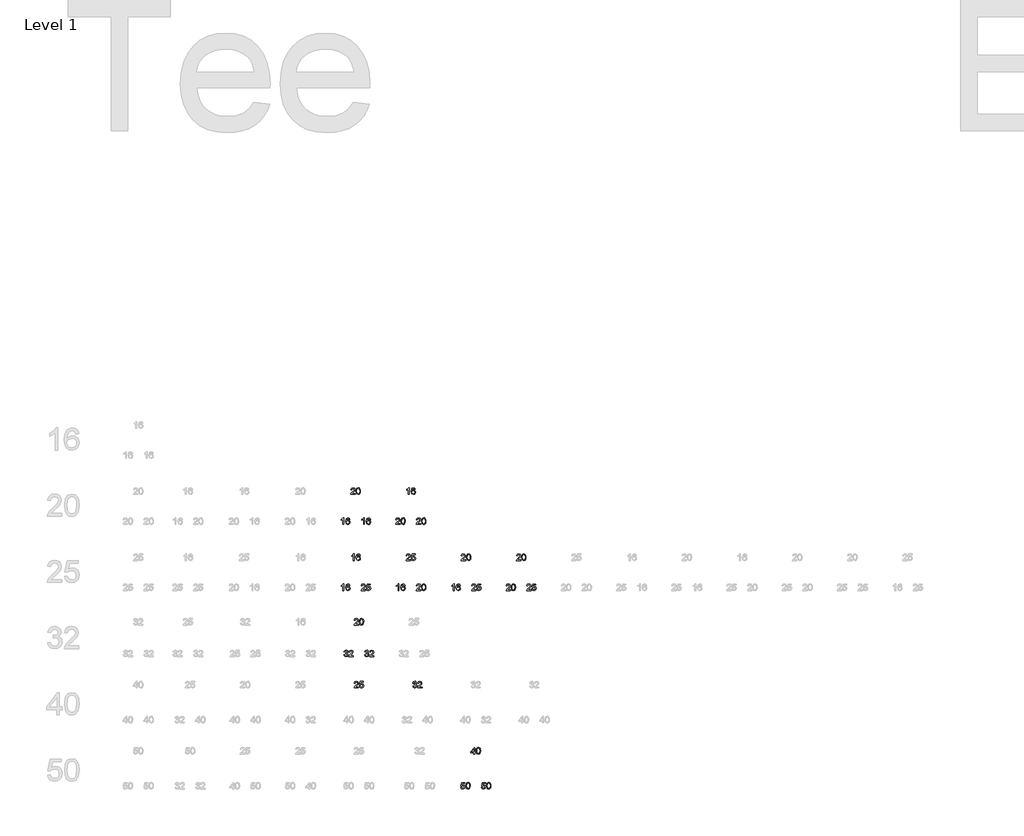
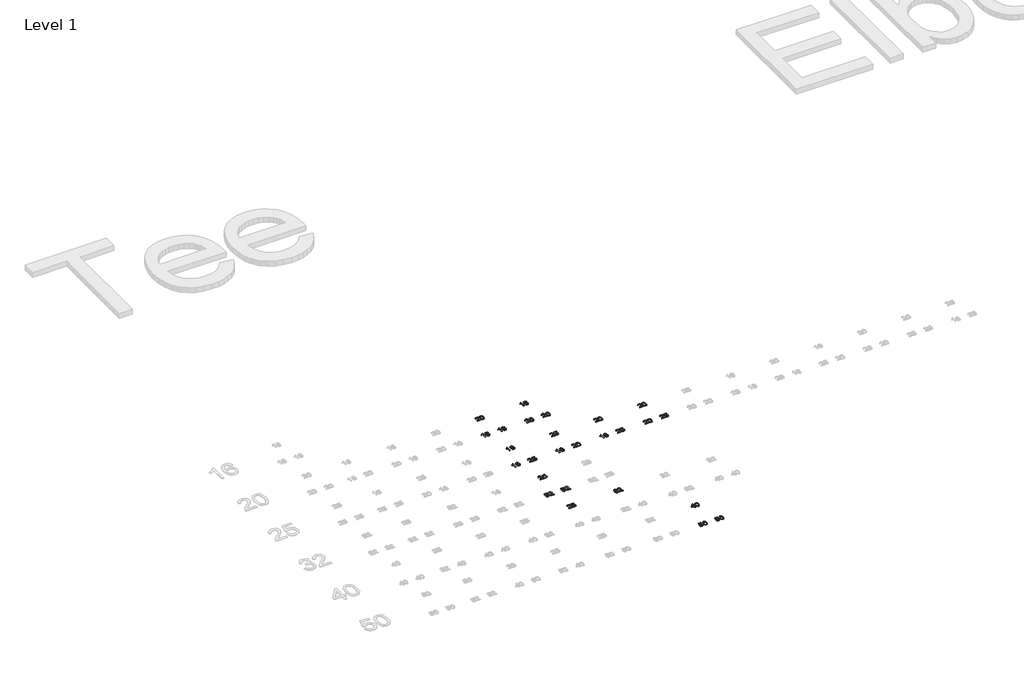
# One storey, part 30 of 58: 26 proxies.
"""IFC4 building model written with IfcOpenShell, lengths in millimetres."""

from ifc_helpers import new_model, si_unit, frame, origin, place, context, project, spatial, polyline, outline, extrude, element, save

model = new_model("IFC4")

# Units and contexts
model_context = context("Model", 3, world=origin())
ifc_project = project(units=[si_unit("LENGTHUNIT", "METRE", prefix="MILLI")], contexts=[model_context])

# Site, building, storey
site = spatial("IfcSite", under=ifc_project)
building = spatial("IfcBuilding", under=site)
storey = spatial("IfcBuildingStorey", under=building, Name="Level 1", Elevation=27.3876384)

# Proxies
placement = place(None, origin())
element("IfcBuildingElementProxy", 1, Name="30mm Arial", ObjectType="30mm Arial", at=placement, inside=storey, context=model_context, shape_type="SweptSolid", body=[
    extrude(outline(polyline([(14046.8470608, 29803.0942054), (14043.0799492, 29803.0942054), (14043.0799492, 29826.579792), (14039.5114938, 29824.0377274), (14035.5457259, 29822.1357775), (14035.5457259, 29825.6968752), (14041.0676346, 29829.2211847), (14044.4190396, 29833.2310985), (14046.8470608, 29833.2310985), (14046.8470608, 29803.0942054)])), frame((0.0, 0.0, 27.3876384), z_axis=(0.0, 0.0, 1.0), x_axis=(1.0, 0.0, 0.0)), (0.0, 0.0, 1.0), 2.0),
    extrude(outline(polyline([(14075.100398, 29825.2259863), (14071.3332864, 29824.7550973), (14069.9059042, 29827.8968096), (14066.131435, 29829.4639869), (14062.7322053, 29828.5516395), (14060.1607102, 29825.1266581), (14059.0901736, 29818.4128117), (14062.412148, 29821.4184076), (14066.5287475, 29822.4006525), (14072.9298942, 29819.715114), (14075.571287, 29812.7768596), (14074.3278458, 29807.578687), (14070.9065433, 29803.899867), (14065.9695669, 29802.6233165), (14058.2918697, 29806.0078308), (14055.323062, 29817.1620129), (14058.6192846, 29829.7950807), (14066.3668795, 29833.2310985), (14072.3192101, 29831.1047406), (14075.100398, 29825.2259863)]), holes=[polyline([(14059.0901736, 29812.8357207), (14059.9620539, 29809.5726074), (14062.2797105, 29807.2034473), (14065.6752613, 29806.3904281), (14070.115597, 29808.0753277), (14071.8041753, 29812.6517797), (14070.1376699, 29817.0332542), (14065.5207509, 29818.6335409), (14060.9626929, 29817.0332542), (14059.0901736, 29812.8357207)])]), frame((0.0, 0.0, 27.3876384), z_axis=(0.0, 0.0, 1.0), x_axis=(1.0, 0.0, 0.0)), (0.0, 0.0, 1.0), 2.0),
])
element("IfcBuildingElementProxy", 2, Name="30mm Arial", ObjectType="30mm Arial", at=placement, inside=storey, context=model_context, shape_type="SweptSolid", body=[
    extrude(outline(polyline([(14140.5970608, 29803.0942054), (14136.8299492, 29803.0942054), (14136.8299492, 29826.579792), (14133.2614938, 29824.0377274), (14129.2957259, 29822.1357775), (14129.2957259, 29825.6968752), (14134.8176346, 29829.2211847), (14138.1690396, 29833.2310985), (14140.5970608, 29833.2310985), (14140.5970608, 29803.0942054)])), frame((0.0, 0.0, 27.3876384), z_axis=(0.0, 0.0, 1.0), x_axis=(1.0, 0.0, 0.0)), (0.0, 0.0, 1.0), 2.0),
    extrude(outline(polyline([(14168.850398, 29825.2259863), (14165.0832864, 29824.7550973), (14163.6559042, 29827.8968096), (14159.881435, 29829.4639869), (14156.4822053, 29828.5516395), (14153.9107102, 29825.1266581), (14152.8401736, 29818.4128117), (14156.162148, 29821.4184076), (14160.2787475, 29822.4006525), (14166.6798942, 29819.715114), (14169.321287, 29812.7768596), (14168.0778458, 29807.578687), (14164.6565433, 29803.899867), (14159.7195669, 29802.6233165), (14152.0418697, 29806.0078308), (14149.073062, 29817.1620129), (14152.3692846, 29829.7950807), (14160.1168795, 29833.2310985), (14166.0692101, 29831.1047406), (14168.850398, 29825.2259863)]), holes=[polyline([(14152.8401736, 29812.8357207), (14153.7120539, 29809.5726074), (14156.0297105, 29807.2034473), (14159.4252613, 29806.3904281), (14163.865597, 29808.0753277), (14165.5541753, 29812.6517797), (14163.8876699, 29817.0332542), (14159.2707509, 29818.6335409), (14154.7126929, 29817.0332542), (14152.8401736, 29812.8357207)])]), frame((0.0, 0.0, 27.3876384), z_axis=(0.0, 0.0, 1.0), x_axis=(1.0, 0.0, 0.0)), (0.0, 0.0, 1.0), 2.0),
])
element("IfcBuildingElementProxy", 3, Name="30mm Arial", ObjectType="30mm Arial", at=placement, inside=storey, context=model_context, shape_type="SweptSolid", body=[
    extrude(outline(polyline([(14098.9550241, 29943.1799576), (14098.9550241, 29939.412846), (14079.177688, 29939.412846), (14079.5823582, 29942.0100929), (14081.8705842, 29946.0089702), (14086.5868314, 29950.3757295), (14093.0909851, 29956.6517963), (14094.7170235, 29960.9192274), (14093.1829556, 29964.3736394), (14089.1767207, 29965.7826274), (14085.00126, 29964.4067488), (14083.4156886, 29960.6028489), (14079.648577, 29961.0737379), (14082.5364506, 29967.3792353), (14089.2576547, 29969.549739), (14096.0009317, 29967.1364332), (14098.4841351, 29961.1473143), (14097.8145899, 29957.5751801), (14095.5889038, 29953.8816449), (14090.192075, 29948.7202605), (14085.8584251, 29945.0966228), (14084.1588102, 29943.1799576), (14098.9550241, 29943.1799576)])), frame((0.0, 0.0, 27.3876384), z_axis=(0.0, 0.0, 1.0), x_axis=(1.0, 0.0, 0.0)), (0.0, 0.0, 1.0), 2.0),
    extrude(outline(polyline([(14102.7221357, 29954.2384904), (14103.8294605, 29962.909469), (14107.1183256, 29967.9089853), (14112.6108037, 29969.549739), (14117.0106724, 29968.5785306), (14120.0493777, 29965.7789486), (14121.8152113, 29961.3202188), (14122.4994718, 29954.2384904), (14121.4031834, 29945.6043), (14118.1253549, 29940.5937472), (14112.6108037, 29938.941957), (14105.7240528, 29941.8114366), (14102.7221357, 29954.2384904)]), holes=[polyline([(14106.4892473, 29954.245848), (14108.2550809, 29944.8906089), (14112.6108037, 29942.7090687), (14116.9665266, 29944.8979666), (14118.7323601, 29954.245848), (14117.0253877, 29963.4944014), (14112.5666579, 29965.7826274), (14108.313942, 29963.7666341), (14106.4892473, 29954.245848)])]), frame((0.0, 0.0, 27.3876384), z_axis=(0.0, 0.0, 1.0), x_axis=(1.0, 0.0, 0.0)), (0.0, 0.0, 1.0), 2.0),
])
element("IfcBuildingElementProxy", 4, Name="30mm Arial", ObjectType="30mm Arial", at=placement, inside=storey, context=model_context, shape_type="SweptSolid", body=[
    extrude(outline(polyline([(14302.3069386, 29806.8613171), (14302.3069386, 29803.0942054), (14282.5296025, 29803.0942054), (14282.9342727, 29805.6914523), (14285.2224987, 29809.6903296), (14289.9387459, 29814.0570889), (14296.4428996, 29820.3331557), (14298.068938, 29824.6005869), (14296.5348701, 29828.0549988), (14292.5286352, 29829.4639869), (14288.3531745, 29828.0881082), (14286.7676031, 29824.2842084), (14283.0004915, 29824.7550973), (14285.8883651, 29831.0605947), (14292.6095692, 29833.2310985), (14299.3528462, 29830.8177926), (14301.8360496, 29824.8286737), (14301.1665044, 29821.2565395), (14298.9408183, 29817.5630043), (14293.5439895, 29812.4016199), (14289.2103396, 29808.7779823), (14287.5107247, 29806.8613171), (14302.3069386, 29806.8613171)])), frame((0.0, 0.0, 27.3876384), z_axis=(0.0, 0.0, 1.0), x_axis=(1.0, 0.0, 0.0)), (0.0, 0.0, 1.0), 2.0),
    extrude(outline(polyline([(14306.0740502, 29817.9198498), (14307.181375, 29826.5908285), (14310.4702401, 29831.5903448), (14315.9627183, 29833.2310985), (14320.3625869, 29832.25989), (14323.4012922, 29829.460308), (14325.1671258, 29825.0015783), (14325.8513863, 29817.9198498), (14324.7550979, 29809.2856594), (14321.4772694, 29804.2751066), (14315.9627183, 29802.6233165), (14309.0759673, 29805.492796), (14306.0740502, 29817.9198498)]), holes=[polyline([(14309.8411619, 29817.9272075), (14311.6069954, 29808.5719683), (14315.9627183, 29806.3904281), (14320.3184411, 29808.579326), (14322.0842747, 29817.9272075), (14320.3773022, 29827.1757608), (14315.9185724, 29829.4639869), (14311.6658565, 29827.4479935), (14309.8411619, 29817.9272075)])]), frame((0.0, 0.0, 27.3876384), z_axis=(0.0, 0.0, 1.0), x_axis=(1.0, 0.0, 0.0)), (0.0, 0.0, 1.0), 2.0),
])
element("IfcBuildingElementProxy", 5, Name="30mm Arial", ObjectType="30mm Arial", at=placement, inside=storey, context=model_context, shape_type="SweptSolid", body=[
    extrude(outline(polyline([(14396.0569386, 29806.8613171), (14396.0569386, 29803.0942054), (14376.2796025, 29803.0942054), (14376.6842727, 29805.6914523), (14378.9724987, 29809.6903296), (14383.6887459, 29814.0570889), (14390.1928996, 29820.3331557), (14391.818938, 29824.6005869), (14390.2848701, 29828.0549988), (14386.2786352, 29829.4639869), (14382.1031745, 29828.0881082), (14380.5176031, 29824.2842084), (14376.7504915, 29824.7550973), (14379.6383651, 29831.0605947), (14386.3595692, 29833.2310985), (14393.1028462, 29830.8177926), (14395.5860496, 29824.8286737), (14394.9165044, 29821.2565395), (14392.6908183, 29817.5630043), (14387.2939895, 29812.4016199), (14382.9603396, 29808.7779823), (14381.2607247, 29806.8613171), (14396.0569386, 29806.8613171)])), frame((0.0, 0.0, 27.3876384), z_axis=(0.0, 0.0, 1.0), x_axis=(1.0, 0.0, 0.0)), (0.0, 0.0, 1.0), 2.0),
    extrude(outline(polyline([(14399.8240502, 29817.9198498), (14400.931375, 29826.5908285), (14404.2202401, 29831.5903448), (14409.7127183, 29833.2310985), (14414.1125869, 29832.25989), (14417.1512922, 29829.460308), (14418.9171258, 29825.0015783), (14419.6013863, 29817.9198498), (14418.5050979, 29809.2856594), (14415.2272694, 29804.2751066), (14409.7127183, 29802.6233165), (14402.8259673, 29805.492796), (14399.8240502, 29817.9198498)]), holes=[polyline([(14403.5911619, 29817.9272075), (14405.3569954, 29808.5719683), (14409.7127183, 29806.3904281), (14414.0684411, 29808.579326), (14415.8342747, 29817.9272075), (14414.1273022, 29827.1757608), (14409.6685724, 29829.4639869), (14405.4158565, 29827.4479935), (14403.5911619, 29817.9272075)])]), frame((0.0, 0.0, 27.3876384), z_axis=(0.0, 0.0, 1.0), x_axis=(1.0, 0.0, 0.0)), (0.0, 0.0, 1.0), 2.0),
])
element("IfcBuildingElementProxy", 6, Name="30mm Arial", ObjectType="30mm Arial", at=placement, inside=storey, context=model_context, shape_type="SweptSolid", body=[
    extrude(outline(polyline([(14344.0553449, 29939.412846), (14340.2882333, 29939.412846), (14340.2882333, 29962.8984326), (14336.7197779, 29960.356368), (14332.75401, 29958.4544181), (14332.75401, 29962.0155158), (14338.2759188, 29965.5398253), (14341.6273237, 29969.549739), (14344.0553449, 29969.549739), (14344.0553449, 29939.412846)])), frame((0.0, 0.0, 27.3876384), z_axis=(0.0, 0.0, 1.0), x_axis=(1.0, 0.0, 0.0)), (0.0, 0.0, 1.0), 2.0),
    extrude(outline(polyline([(14372.3086821, 29961.5446268), (14368.5415705, 29961.0737379), (14367.1141884, 29964.2154501), (14363.3397191, 29965.7826274), (14359.9404895, 29964.8702801), (14357.3689943, 29961.4452987), (14356.2984577, 29954.7314523), (14359.6204321, 29957.7370482), (14363.7370316, 29958.7192931), (14370.1381784, 29956.0337545), (14372.7795711, 29949.0955001), (14371.5361299, 29943.8973275), (14368.1148274, 29940.2185076), (14363.177851, 29938.941957), (14355.5001538, 29942.3264714), (14352.5313461, 29953.4806535), (14355.8275687, 29966.1137212), (14363.5751636, 29969.549739), (14369.5274943, 29967.4233811), (14372.3086821, 29961.5446268)]), holes=[polyline([(14356.2984577, 29949.1543612), (14357.170338, 29945.8912479), (14359.4879946, 29943.5220879), (14362.8835454, 29942.7090687), (14367.3238811, 29944.3939682), (14369.0124595, 29948.9704202), (14367.345954, 29953.3518948), (14362.729035, 29954.9521815), (14358.1709771, 29953.3518948), (14356.2984577, 29949.1543612)])]), frame((0.0, 0.0, 27.3876384), z_axis=(0.0, 0.0, 1.0), x_axis=(1.0, 0.0, 0.0)), (0.0, 0.0, 1.0), 2.0),
])
element("IfcBuildingElementProxy", 7, Name="30mm Arial", ObjectType="30mm Arial", at=placement, inside=storey, context=model_context, shape_type="SweptSolid", body=[
    extrude(outline(polyline([(14046.8470608, 29503.0942054), (14043.0799492, 29503.0942054), (14043.0799492, 29526.579792), (14039.5114938, 29524.0377274), (14035.5457259, 29522.1357775), (14035.5457259, 29525.6968752), (14041.0676346, 29529.2211847), (14044.4190396, 29533.2310985), (14046.8470608, 29533.2310985), (14046.8470608, 29503.0942054)])), frame((0.0, 0.0, 27.3876384), z_axis=(0.0, 0.0, 1.0), x_axis=(1.0, 0.0, 0.0)), (0.0, 0.0, 1.0), 2.0),
    extrude(outline(polyline([(14075.100398, 29525.2259863), (14071.3332864, 29524.7550973), (14069.9059042, 29527.8968096), (14066.131435, 29529.4639869), (14062.7322053, 29528.5516395), (14060.1607102, 29525.1266581), (14059.0901736, 29518.4128117), (14062.412148, 29521.4184076), (14066.5287475, 29522.4006525), (14072.9298942, 29519.715114), (14075.571287, 29512.7768596), (14074.3278458, 29507.578687), (14070.9065433, 29503.899867), (14065.9695669, 29502.6233165), (14058.2918697, 29506.0078308), (14055.323062, 29517.1620129), (14058.6192846, 29529.7950807), (14066.3668795, 29533.2310985), (14072.3192101, 29531.1047406), (14075.100398, 29525.2259863)]), holes=[polyline([(14059.0901736, 29512.8357207), (14059.9620539, 29509.5726074), (14062.2797105, 29507.2034473), (14065.6752613, 29506.3904281), (14070.115597, 29508.0753277), (14071.8041753, 29512.6517797), (14070.1376699, 29517.0332542), (14065.5207509, 29518.6335409), (14060.9626929, 29517.0332542), (14059.0901736, 29512.8357207)])]), frame((0.0, 0.0, 27.3876384), z_axis=(0.0, 0.0, 1.0), x_axis=(1.0, 0.0, 0.0)), (0.0, 0.0, 1.0), 2.0),
])
element("IfcBuildingElementProxy", 8, Name="30mm Arial", ObjectType="30mm Arial", at=placement, inside=storey, context=model_context, shape_type="SweptSolid", body=[
    extrude(outline(polyline([(14145.7768393, 29506.8613171), (14145.7768393, 29503.0942054), (14125.9995032, 29503.0942054), (14126.4041734, 29505.6914523), (14128.6923994, 29509.6903296), (14133.4086466, 29514.0570889), (14139.9128003, 29520.3331557), (14141.5388387, 29524.6005869), (14140.0047708, 29528.0549988), (14135.9985358, 29529.4639869), (14131.8230752, 29528.0881082), (14130.2375038, 29524.2842084), (14126.4703922, 29524.7550973), (14129.3582658, 29531.0605947), (14136.0794699, 29533.2310985), (14142.8227469, 29530.8177926), (14145.3059503, 29524.8286737), (14144.6364051, 29521.2565395), (14142.410719, 29517.5630043), (14137.0138902, 29512.4016199), (14132.6802403, 29508.7779823), (14130.9806254, 29506.8613171), (14145.7768393, 29506.8613171)])), frame((0.0, 0.0, 27.3876384), z_axis=(0.0, 0.0, 1.0), x_axis=(1.0, 0.0, 0.0)), (0.0, 0.0, 1.0), 2.0),
    extrude(outline(polyline([(14149.5439509, 29511.0993177), (14153.3110625, 29511.5702066), (14155.2093336, 29507.6890516), (14159.145671, 29506.3904281), (14163.8692758, 29508.1967287), (14165.5541753, 29512.9902311), (14163.9759616, 29517.4636762), (14159.2045321, 29519.1044299), (14155.897273, 29518.4495999), (14153.7819515, 29516.7499851), (14150.0148399, 29517.2208741), (14153.3110625, 29532.7602095), (14167.9086201, 29532.7602095), (14167.9086201, 29528.9930979), (14156.3571255, 29528.9930979), (14154.7458023, 29520.6936801), (14160.2566746, 29522.8715415), (14166.6982883, 29520.1712877), (14169.321287, 29513.2256756), (14166.9594846, 29506.2359177), (14159.1309557, 29502.6233165), (14152.4833281, 29504.9446519), (14149.5439509, 29511.0993177)])), frame((0.0, 0.0, 27.3876384), z_axis=(0.0, 0.0, 1.0), x_axis=(1.0, 0.0, 0.0)), (0.0, 0.0, 1.0), 2.0),
])
element("IfcBuildingElementProxy", 9, Name="30mm Arial", ObjectType="30mm Arial", at=placement, inside=storey, context=model_context, shape_type="SweptSolid", body=[
    extrude(outline(polyline([(14093.7752456, 29639.412846), (14090.008134, 29639.412846), (14090.008134, 29662.8984326), (14086.4396786, 29660.356368), (14082.4739107, 29658.4544181), (14082.4739107, 29662.0155158), (14087.9958194, 29665.5398253), (14091.3472244, 29669.549739), (14093.7752456, 29669.549739), (14093.7752456, 29639.412846)])), frame((0.0, 0.0, 27.3876384), z_axis=(0.0, 0.0, 1.0), x_axis=(1.0, 0.0, 0.0)), (0.0, 0.0, 1.0), 2.0),
    extrude(outline(polyline([(14122.0285828, 29661.5446268), (14118.2614712, 29661.0737379), (14116.8340891, 29664.2154501), (14113.0596198, 29665.7826274), (14109.6603901, 29664.8702801), (14107.088895, 29661.4452987), (14106.0183584, 29654.7314523), (14109.3403328, 29657.7370482), (14113.4569323, 29658.7192931), (14119.8580791, 29656.0337545), (14122.4994718, 29649.0955001), (14121.2560306, 29643.8973275), (14117.8347281, 29640.2185076), (14112.8977517, 29638.941957), (14105.2200545, 29642.3264714), (14102.2512468, 29653.4806535), (14105.5474694, 29666.1137212), (14113.2950643, 29669.549739), (14119.2473949, 29667.4233811), (14122.0285828, 29661.5446268)]), holes=[polyline([(14106.0183584, 29649.1543612), (14106.8902387, 29645.8912479), (14109.2078953, 29643.5220879), (14112.6034461, 29642.7090687), (14117.0437818, 29644.3939682), (14118.7323601, 29648.9704202), (14117.0658547, 29653.3518948), (14112.4489357, 29654.9521815), (14107.8908777, 29653.3518948), (14106.0183584, 29649.1543612)])]), frame((0.0, 0.0, 27.3876384), z_axis=(0.0, 0.0, 1.0), x_axis=(1.0, 0.0, 0.0)), (0.0, 0.0, 1.0), 2.0),
])
element("IfcBuildingElementProxy", 10, Name="30mm Arial", ObjectType="30mm Arial", at=placement, inside=storey, context=model_context, shape_type="SweptSolid", body=[
    extrude(outline(polyline([(14297.1271601, 29503.0942054), (14293.3600485, 29503.0942054), (14293.3600485, 29526.579792), (14289.7915931, 29524.0377274), (14285.8258252, 29522.1357775), (14285.8258252, 29525.6968752), (14291.347734, 29529.2211847), (14294.6991389, 29533.2310985), (14297.1271601, 29533.2310985), (14297.1271601, 29503.0942054)])), frame((0.0, 0.0, 27.3876384), z_axis=(0.0, 0.0, 1.0), x_axis=(1.0, 0.0, 0.0)), (0.0, 0.0, 1.0), 2.0),
    extrude(outline(polyline([(14325.3804973, 29525.2259863), (14321.6133857, 29524.7550973), (14320.1860036, 29527.8968096), (14316.4115343, 29529.4639869), (14313.0123047, 29528.5516395), (14310.4408095, 29525.1266581), (14309.3702729, 29518.4128117), (14312.6922473, 29521.4184076), (14316.8088468, 29522.4006525), (14323.2099936, 29519.715114), (14325.8513863, 29512.7768596), (14324.6079451, 29507.578687), (14321.1866426, 29503.899867), (14316.2496662, 29502.6233165), (14308.571969, 29506.0078308), (14305.6031613, 29517.1620129), (14308.8993839, 29529.7950807), (14316.6469788, 29533.2310985), (14322.5993094, 29531.1047406), (14325.3804973, 29525.2259863)]), holes=[polyline([(14309.3702729, 29512.8357207), (14310.2421532, 29509.5726074), (14312.5598098, 29507.2034473), (14315.9553606, 29506.3904281), (14320.3956963, 29508.0753277), (14322.0842747, 29512.6517797), (14320.4177692, 29517.0332542), (14315.8008502, 29518.6335409), (14311.2427923, 29517.0332542), (14309.3702729, 29512.8357207)])]), frame((0.0, 0.0, 27.3876384), z_axis=(0.0, 0.0, 1.0), x_axis=(1.0, 0.0, 0.0)), (0.0, 0.0, 1.0), 2.0),
])
element("IfcBuildingElementProxy", 11, Name="30mm Arial", ObjectType="30mm Arial", at=placement, inside=storey, context=model_context, shape_type="SweptSolid", body=[
    extrude(outline(polyline([(14396.0569386, 29506.8613171), (14396.0569386, 29503.0942054), (14376.2796025, 29503.0942054), (14376.6842727, 29505.6914523), (14378.9724987, 29509.6903296), (14383.6887459, 29514.0570889), (14390.1928996, 29520.3331557), (14391.818938, 29524.6005869), (14390.2848701, 29528.0549988), (14386.2786352, 29529.4639869), (14382.1031745, 29528.0881082), (14380.5176031, 29524.2842084), (14376.7504915, 29524.7550973), (14379.6383651, 29531.0605947), (14386.3595692, 29533.2310985), (14393.1028462, 29530.8177926), (14395.5860496, 29524.8286737), (14394.9165044, 29521.2565395), (14392.6908183, 29517.5630043), (14387.2939895, 29512.4016199), (14382.9603396, 29508.7779823), (14381.2607247, 29506.8613171), (14396.0569386, 29506.8613171)])), frame((0.0, 0.0, 27.3876384), z_axis=(0.0, 0.0, 1.0), x_axis=(1.0, 0.0, 0.0)), (0.0, 0.0, 1.0), 2.0),
    extrude(outline(polyline([(14399.8240502, 29517.9198498), (14400.931375, 29526.5908285), (14404.2202401, 29531.5903448), (14409.7127183, 29533.2310985), (14414.1125869, 29532.25989), (14417.1512922, 29529.460308), (14418.9171258, 29525.0015783), (14419.6013863, 29517.9198498), (14418.5050979, 29509.2856594), (14415.2272694, 29504.2751066), (14409.7127183, 29502.6233165), (14402.8259673, 29505.492796), (14399.8240502, 29517.9198498)]), holes=[polyline([(14403.5911619, 29517.9272075), (14405.3569954, 29508.5719683), (14409.7127183, 29506.3904281), (14414.0684411, 29508.579326), (14415.8342747, 29517.9272075), (14414.1273022, 29527.1757608), (14409.6685724, 29529.4639869), (14405.4158565, 29527.4479935), (14403.5911619, 29517.9272075)])]), frame((0.0, 0.0, 27.3876384), z_axis=(0.0, 0.0, 1.0), x_axis=(1.0, 0.0, 0.0)), (0.0, 0.0, 1.0), 2.0),
])
element("IfcBuildingElementProxy", 12, Name="30mm Arial", ObjectType="30mm Arial", at=placement, inside=storey, context=model_context, shape_type="SweptSolid", body=[
    extrude(outline(polyline([(14349.2351234, 29643.1799576), (14349.2351234, 29639.412846), (14329.4577873, 29639.412846), (14329.8624575, 29642.0100929), (14332.1506835, 29646.0089702), (14336.8669307, 29650.3757295), (14343.3710844, 29656.6517963), (14344.9971228, 29660.9192274), (14343.4630549, 29664.3736394), (14339.45682, 29665.7826274), (14335.2813593, 29664.4067488), (14333.6957879, 29660.6028489), (14329.9286763, 29661.0737379), (14332.81655, 29667.3792353), (14339.537754, 29669.549739), (14346.281031, 29667.1364332), (14348.7642344, 29661.1473143), (14348.0946892, 29657.5751801), (14345.8690031, 29653.8816449), (14340.4721743, 29648.7202605), (14336.1385244, 29645.0966228), (14334.4389096, 29643.1799576), (14349.2351234, 29643.1799576)])), frame((0.0, 0.0, 27.3876384), z_axis=(0.0, 0.0, 1.0), x_axis=(1.0, 0.0, 0.0)), (0.0, 0.0, 1.0), 2.0),
    extrude(outline(polyline([(14353.002235, 29647.4179582), (14356.7693467, 29647.8888472), (14358.6676178, 29644.0076921), (14362.6039551, 29642.7090687), (14367.3275599, 29644.5153693), (14369.0124595, 29649.3088717), (14367.4342457, 29653.7823167), (14362.6628162, 29655.4230704), (14359.3555571, 29654.7682405), (14357.2402356, 29653.0686257), (14353.473124, 29653.5395146), (14356.7693467, 29669.0788501), (14371.3669042, 29669.0788501), (14371.3669042, 29665.3117385), (14359.8154096, 29665.3117385), (14358.2040864, 29657.0123207), (14363.7149587, 29659.1901821), (14370.1565725, 29656.4899282), (14372.7795711, 29649.5443161), (14370.4177687, 29642.5545582), (14362.5892398, 29638.941957), (14355.9416122, 29641.2632924), (14353.002235, 29647.4179582)])), frame((0.0, 0.0, 27.3876384), z_axis=(0.0, 0.0, 1.0), x_axis=(1.0, 0.0, 0.0)), (0.0, 0.0, 1.0), 2.0),
])
element("IfcBuildingElementProxy", 13, Name="30mm Arial", ObjectType="30mm Arial", at=placement, inside=storey, context=model_context, shape_type="SweptSolid", body=[
    extrude(outline(polyline([(14547.4072594, 29503.0942054), (14543.6401478, 29503.0942054), (14543.6401478, 29526.579792), (14540.0716924, 29524.0377274), (14536.1059245, 29522.1357775), (14536.1059245, 29525.6968752), (14541.6278333, 29529.2211847), (14544.9792382, 29533.2310985), (14547.4072594, 29533.2310985), (14547.4072594, 29503.0942054)])), frame((0.0, 0.0, 27.3876384), z_axis=(0.0, 0.0, 1.0), x_axis=(1.0, 0.0, 0.0)), (0.0, 0.0, 1.0), 2.0),
    extrude(outline(polyline([(14575.6605966, 29525.2259863), (14571.893485, 29524.7550973), (14570.4661029, 29527.8968096), (14566.6916336, 29529.4639869), (14563.292404, 29528.5516395), (14560.7209088, 29525.1266581), (14559.6503722, 29518.4128117), (14562.9723466, 29521.4184076), (14567.0889462, 29522.4006525), (14573.4900929, 29519.715114), (14576.1314856, 29512.7768596), (14574.8880444, 29507.578687), (14571.4667419, 29503.899867), (14566.5297655, 29502.6233165), (14558.8520683, 29506.0078308), (14555.8832606, 29517.1620129), (14559.1794833, 29529.7950807), (14566.9270781, 29533.2310985), (14572.8794088, 29531.1047406), (14575.6605966, 29525.2259863)]), holes=[polyline([(14559.6503722, 29512.8357207), (14560.5222525, 29509.5726074), (14562.8399091, 29507.2034473), (14566.2354599, 29506.3904281), (14570.6757956, 29508.0753277), (14572.364374, 29512.6517797), (14570.6978685, 29517.0332542), (14566.0809495, 29518.6335409), (14561.5228916, 29517.0332542), (14559.6503722, 29512.8357207)])]), frame((0.0, 0.0, 27.3876384), z_axis=(0.0, 0.0, 1.0), x_axis=(1.0, 0.0, 0.0)), (0.0, 0.0, 1.0), 2.0),
])
element("IfcBuildingElementProxy", 14, Name="30mm Arial", ObjectType="30mm Arial", at=placement, inside=storey, context=model_context, shape_type="SweptSolid", body=[
    extrude(outline(polyline([(14646.3370379, 29506.8613171), (14646.3370379, 29503.0942054), (14626.5597018, 29503.0942054), (14626.964372, 29505.6914523), (14629.252598, 29509.6903296), (14633.9688452, 29514.0570889), (14640.4729989, 29520.3331557), (14642.0990373, 29524.6005869), (14640.5649694, 29528.0549988), (14636.5587345, 29529.4639869), (14632.3832738, 29528.0881082), (14630.7977024, 29524.2842084), (14627.0305908, 29524.7550973), (14629.9184645, 29531.0605947), (14636.6396685, 29533.2310985), (14643.3829455, 29530.8177926), (14645.8661489, 29524.8286737), (14645.1966037, 29521.2565395), (14642.9709176, 29517.5630043), (14637.5740888, 29512.4016199), (14633.2404389, 29508.7779823), (14631.5408241, 29506.8613171), (14646.3370379, 29506.8613171)])), frame((0.0, 0.0, 27.3876384), z_axis=(0.0, 0.0, 1.0), x_axis=(1.0, 0.0, 0.0)), (0.0, 0.0, 1.0), 2.0),
    extrude(outline(polyline([(14650.1041495, 29511.0993177), (14653.8712612, 29511.5702066), (14655.7695323, 29507.6890516), (14659.7058696, 29506.3904281), (14664.4294744, 29508.1967287), (14666.114374, 29512.9902311), (14664.5361602, 29517.4636762), (14659.7647307, 29519.1044299), (14656.4574716, 29518.4495999), (14654.3421501, 29516.7499851), (14650.5750385, 29517.2208741), (14653.8712612, 29532.7602095), (14668.4688187, 29532.7602095), (14668.4688187, 29528.9930979), (14656.9173241, 29528.9930979), (14655.3060009, 29520.6936801), (14660.8168732, 29522.8715415), (14667.258487, 29520.1712877), (14669.8814856, 29513.2256756), (14667.5196832, 29506.2359177), (14659.6911543, 29502.6233165), (14653.0435267, 29504.9446519), (14650.1041495, 29511.0993177)])), frame((0.0, 0.0, 27.3876384), z_axis=(0.0, 0.0, 1.0), x_axis=(1.0, 0.0, 0.0)), (0.0, 0.0, 1.0), 2.0),
])
element("IfcBuildingElementProxy", 15, Name="30mm Arial", ObjectType="30mm Arial", at=placement, inside=storey, context=model_context, shape_type="SweptSolid", body=[
    extrude(outline(polyline([(14599.5152227, 29643.1799576), (14599.5152227, 29639.412846), (14579.7378866, 29639.412846), (14580.1425568, 29642.0100929), (14582.4307829, 29646.0089702), (14587.14703, 29650.3757295), (14593.6511837, 29656.6517963), (14595.2772221, 29660.9192274), (14593.7431542, 29664.3736394), (14589.7369193, 29665.7826274), (14585.5614586, 29664.4067488), (14583.9758872, 29660.6028489), (14580.2087756, 29661.0737379), (14583.0966493, 29667.3792353), (14589.8178533, 29669.549739), (14596.5611303, 29667.1364332), (14599.0443338, 29661.1473143), (14598.3747885, 29657.5751801), (14596.1491025, 29653.8816449), (14590.7522736, 29648.7202605), (14586.4186237, 29645.0966228), (14584.7190089, 29643.1799576), (14599.5152227, 29643.1799576)])), frame((0.0, 0.0, 27.3876384), z_axis=(0.0, 0.0, 1.0), x_axis=(1.0, 0.0, 0.0)), (0.0, 0.0, 1.0), 2.0),
    extrude(outline(polyline([(14603.2823343, 29654.2384904), (14604.3896591, 29662.909469), (14607.6785242, 29667.9089853), (14613.1710024, 29669.549739), (14617.570871, 29668.5785306), (14620.6095763, 29665.7789486), (14622.3754099, 29661.3202188), (14623.0596704, 29654.2384904), (14621.9633821, 29645.6043), (14618.6855535, 29640.5937472), (14613.1710024, 29638.941957), (14606.2842514, 29641.8114366), (14603.2823343, 29654.2384904)]), holes=[polyline([(14607.049446, 29654.245848), (14608.8152795, 29644.8906089), (14613.1710024, 29642.7090687), (14617.5267252, 29644.8979666), (14619.2925588, 29654.245848), (14617.5855863, 29663.4944014), (14613.1268565, 29665.7826274), (14608.8741407, 29663.7666341), (14607.049446, 29654.245848)])]), frame((0.0, 0.0, 27.3876384), z_axis=(0.0, 0.0, 1.0), x_axis=(1.0, 0.0, 0.0)), (0.0, 0.0, 1.0), 2.0),
])
element("IfcBuildingElementProxy", 16, Name="30mm Arial", ObjectType="30mm Arial", at=placement, inside=storey, context=model_context, shape_type="SweptSolid", body=[
    extrude(outline(polyline([(14802.8671372, 29506.8613171), (14802.8671372, 29503.0942054), (14783.0898012, 29503.0942054), (14783.4944713, 29505.6914523), (14785.7826974, 29509.6903296), (14790.4989445, 29514.0570889), (14797.0030982, 29520.3331557), (14798.6291366, 29524.6005869), (14797.0950687, 29528.0549988), (14793.0888338, 29529.4639869), (14788.9133731, 29528.0881082), (14787.3278017, 29524.2842084), (14783.5606901, 29524.7550973), (14786.4485638, 29531.0605947), (14793.1697678, 29533.2310985), (14799.9130448, 29530.8177926), (14802.3962483, 29524.8286737), (14801.726703, 29521.2565395), (14799.501017, 29517.5630043), (14794.1041881, 29512.4016199), (14789.7705382, 29508.7779823), (14788.0709234, 29506.8613171), (14802.8671372, 29506.8613171)])), frame((0.0, 0.0, 27.3876384), z_axis=(0.0, 0.0, 1.0), x_axis=(1.0, 0.0, 0.0)), (0.0, 0.0, 1.0), 2.0),
    extrude(outline(polyline([(14806.6342488, 29517.9198498), (14807.7415736, 29526.5908285), (14811.0304387, 29531.5903448), (14816.5229169, 29533.2310985), (14820.9227855, 29532.25989), (14823.9614908, 29529.460308), (14825.7273244, 29525.0015783), (14826.4115849, 29517.9198498), (14825.3152966, 29509.2856594), (14822.037468, 29504.2751066), (14816.5229169, 29502.6233165), (14809.6361659, 29505.492796), (14806.6342488, 29517.9198498)]), holes=[polyline([(14810.4013605, 29517.9272075), (14812.1671941, 29508.5719683), (14816.5229169, 29506.3904281), (14820.8786397, 29508.579326), (14822.6444733, 29517.9272075), (14820.9375008, 29527.1757608), (14816.478771, 29529.4639869), (14812.2260552, 29527.4479935), (14810.4013605, 29517.9272075)])]), frame((0.0, 0.0, 27.3876384), z_axis=(0.0, 0.0, 1.0), x_axis=(1.0, 0.0, 0.0)), (0.0, 0.0, 1.0), 2.0),
])
element("IfcBuildingElementProxy", 17, Name="30mm Arial", ObjectType="30mm Arial", at=placement, inside=storey, context=model_context, shape_type="SweptSolid", body=[
    extrude(outline(polyline([(14896.6171372, 29506.8613171), (14896.6171372, 29503.0942054), (14876.8398012, 29503.0942054), (14877.2444713, 29505.6914523), (14879.5326974, 29509.6903296), (14884.2489445, 29514.0570889), (14890.7530982, 29520.3331557), (14892.3791366, 29524.6005869), (14890.8450687, 29528.0549988), (14886.8388338, 29529.4639869), (14882.6633731, 29528.0881082), (14881.0778017, 29524.2842084), (14877.3106901, 29524.7550973), (14880.1985638, 29531.0605947), (14886.9197678, 29533.2310985), (14893.6630448, 29530.8177926), (14896.1462483, 29524.8286737), (14895.476703, 29521.2565395), (14893.251017, 29517.5630043), (14887.8541881, 29512.4016199), (14883.5205382, 29508.7779823), (14881.8209234, 29506.8613171), (14896.6171372, 29506.8613171)])), frame((0.0, 0.0, 27.3876384), z_axis=(0.0, 0.0, 1.0), x_axis=(1.0, 0.0, 0.0)), (0.0, 0.0, 1.0), 2.0),
    extrude(outline(polyline([(14900.3842488, 29511.0993177), (14904.1513605, 29511.5702066), (14906.0496316, 29507.6890516), (14909.9859689, 29506.3904281), (14914.7095737, 29508.1967287), (14916.3944733, 29512.9902311), (14914.8162595, 29517.4636762), (14910.04483, 29519.1044299), (14906.7375709, 29518.4495999), (14904.6222494, 29516.7499851), (14900.8551378, 29517.2208741), (14904.1513605, 29532.7602095), (14918.748918, 29532.7602095), (14918.748918, 29528.9930979), (14907.1974234, 29528.9930979), (14905.5861003, 29520.6936801), (14911.0969725, 29522.8715415), (14917.5385863, 29520.1712877), (14920.1615849, 29513.2256756), (14917.7997825, 29506.2359177), (14909.9712536, 29502.6233165), (14903.323626, 29504.9446519), (14900.3842488, 29511.0993177)])), frame((0.0, 0.0, 27.3876384), z_axis=(0.0, 0.0, 1.0), x_axis=(1.0, 0.0, 0.0)), (0.0, 0.0, 1.0), 2.0),
])
element("IfcBuildingElementProxy", 18, Name="30mm Arial", ObjectType="30mm Arial", at=placement, inside=storey, context=model_context, shape_type="SweptSolid", body=[
    extrude(outline(polyline([(14849.795322, 29643.1799576), (14849.795322, 29639.412846), (14830.017986, 29639.412846), (14830.4226562, 29642.0100929), (14832.7108822, 29646.0089702), (14837.4271293, 29650.3757295), (14843.931283, 29656.6517963), (14845.5573214, 29660.9192274), (14844.0232535, 29664.3736394), (14840.0170186, 29665.7826274), (14835.8415579, 29664.4067488), (14834.2559865, 29660.6028489), (14830.4888749, 29661.0737379), (14833.3767486, 29667.3792353), (14840.0979526, 29669.549739), (14846.8412296, 29667.1364332), (14849.3244331, 29661.1473143), (14848.6548878, 29657.5751801), (14846.4292018, 29653.8816449), (14841.0323729, 29648.7202605), (14836.698723, 29645.0966228), (14834.9991082, 29643.1799576), (14849.795322, 29643.1799576)])), frame((0.0, 0.0, 27.3876384), z_axis=(0.0, 0.0, 1.0), x_axis=(1.0, 0.0, 0.0)), (0.0, 0.0, 1.0), 2.0),
    extrude(outline(polyline([(14853.5624336, 29654.2384904), (14854.6697585, 29662.909469), (14857.9586235, 29667.9089853), (14863.4511017, 29669.549739), (14867.8509703, 29668.5785306), (14870.8896756, 29665.7789486), (14872.6555092, 29661.3202188), (14873.3397697, 29654.2384904), (14872.2434814, 29645.6043), (14868.9656528, 29640.5937472), (14863.4511017, 29638.941957), (14856.5643507, 29641.8114366), (14853.5624336, 29654.2384904)]), holes=[polyline([(14857.3295453, 29654.245848), (14859.0953789, 29644.8906089), (14863.4511017, 29642.7090687), (14867.8068245, 29644.8979666), (14869.5726581, 29654.245848), (14867.8656856, 29663.4944014), (14863.4069558, 29665.7826274), (14859.15424, 29663.7666341), (14857.3295453, 29654.245848)])]), frame((0.0, 0.0, 27.3876384), z_axis=(0.0, 0.0, 1.0), x_axis=(1.0, 0.0, 0.0)), (0.0, 0.0, 1.0), 2.0),
])
element("IfcBuildingElementProxy", 19, Name="30mm Arial", ObjectType="30mm Arial", at=placement, inside=storey, context=model_context, shape_type="SweptSolid", body=[
    extrude(outline(polyline([(14047.7203922, 29211.0993177), (14051.4875038, 29211.5702066), (14053.5660371, 29207.6044387), (14057.4545498, 29206.3904281), (14062.0310018, 29208.0606124), (14063.7306166, 29212.195606), (14062.0457171, 29216.0914763), (14057.7635706, 29217.6329019), (14055.1221779, 29217.2208741), (14055.5415634, 29220.9879857), (14060.4196786, 29222.0254129), (14062.3179497, 29225.3510661), (14060.9420711, 29228.2978009), (14057.3956886, 29229.4639869), (14053.8051604, 29228.2867645), (14051.9583928, 29224.7550973), (14048.1912811, 29225.2259863), (14051.2741322, 29231.1341711), (14057.2632511, 29233.2310985), (14061.8065938, 29232.1973501), (14064.9850942, 29229.3720164), (14066.0850614, 29225.5717953), (14065.0402765, 29222.0989893), (14061.9500677, 29219.6047494), (14066.0556308, 29217.0295754), (14067.4977282, 29212.1293872), (14064.6135334, 29205.3897891), (14057.3221122, 29202.6233165), (14050.7149516, 29204.9851189), (14047.7203922, 29211.0993177)])), frame((0.0, 0.0, 27.3876384), z_axis=(0.0, 0.0, 1.0), x_axis=(1.0, 0.0, 0.0)), (0.0, 0.0, 1.0), 2.0),
    extrude(outline(polyline([(14090.100398, 29206.8613171), (14090.100398, 29203.0942054), (14070.323062, 29203.0942054), (14070.7277322, 29205.6914523), (14073.0159582, 29209.6903296), (14077.7322053, 29214.0570889), (14084.236359, 29220.3331557), (14085.8623974, 29224.6005869), (14084.3283295, 29228.0549988), (14080.3220946, 29229.4639869), (14076.1466339, 29228.0881082), (14074.5610625, 29224.2842084), (14070.7939509, 29224.7550973), (14073.6818246, 29231.0605947), (14080.4030286, 29233.2310985), (14087.1463056, 29230.8177926), (14089.6295091, 29224.8286737), (14088.9599638, 29221.2565395), (14086.7342778, 29217.5630043), (14081.3374489, 29212.4016199), (14077.003799, 29208.7779823), (14075.3041842, 29206.8613171), (14090.100398, 29206.8613171)])), frame((0.0, 0.0, 27.3876384), z_axis=(0.0, 0.0, 1.0), x_axis=(1.0, 0.0, 0.0)), (0.0, 0.0, 1.0), 2.0),
])
element("IfcBuildingElementProxy", 20, Name="30mm Arial", ObjectType="30mm Arial", at=placement, inside=storey, context=model_context, shape_type="SweptSolid", body=[
    extrude(outline(polyline([(14141.4703922, 29211.0993177), (14145.2375038, 29211.5702066), (14147.3160371, 29207.6044387), (14151.2045498, 29206.3904281), (14155.7810018, 29208.0606124), (14157.4806166, 29212.195606), (14155.7957171, 29216.0914763), (14151.5135706, 29217.6329019), (14148.8721779, 29217.2208741), (14149.2915634, 29220.9879857), (14154.1696786, 29222.0254129), (14156.0679497, 29225.3510661), (14154.6920711, 29228.2978009), (14151.1456886, 29229.4639869), (14147.5551604, 29228.2867645), (14145.7083928, 29224.7550973), (14141.9412811, 29225.2259863), (14145.0241322, 29231.1341711), (14151.0132511, 29233.2310985), (14155.5565938, 29232.1973501), (14158.7350942, 29229.3720164), (14159.8350614, 29225.5717953), (14158.7902765, 29222.0989893), (14155.7000677, 29219.6047494), (14159.8056308, 29217.0295754), (14161.2477282, 29212.1293872), (14158.3635334, 29205.3897891), (14151.0721122, 29202.6233165), (14144.4649516, 29204.9851189), (14141.4703922, 29211.0993177)])), frame((0.0, 0.0, 27.3876384), z_axis=(0.0, 0.0, 1.0), x_axis=(1.0, 0.0, 0.0)), (0.0, 0.0, 1.0), 2.0),
    extrude(outline(polyline([(14183.850398, 29206.8613171), (14183.850398, 29203.0942054), (14164.073062, 29203.0942054), (14164.4777322, 29205.6914523), (14166.7659582, 29209.6903296), (14171.4822053, 29214.0570889), (14177.986359, 29220.3331557), (14179.6123974, 29224.6005869), (14178.0783295, 29228.0549988), (14174.0720946, 29229.4639869), (14169.8966339, 29228.0881082), (14168.3110625, 29224.2842084), (14164.5439509, 29224.7550973), (14167.4318246, 29231.0605947), (14174.1530286, 29233.2310985), (14180.8963056, 29230.8177926), (14183.3795091, 29224.8286737), (14182.7099638, 29221.2565395), (14180.4842778, 29217.5630043), (14175.0874489, 29212.4016199), (14170.753799, 29208.7779823), (14169.0541842, 29206.8613171), (14183.850398, 29206.8613171)])), frame((0.0, 0.0, 27.3876384), z_axis=(0.0, 0.0, 1.0), x_axis=(1.0, 0.0, 0.0)), (0.0, 0.0, 1.0), 2.0),
])
element("IfcBuildingElementProxy", 21, Name="30mm Arial", ObjectType="30mm Arial", at=placement, inside=storey, context=model_context, shape_type="SweptSolid", body=[
    extrude(outline(polyline([(14113.9550241, 29350.6799576), (14113.9550241, 29346.912846), (14094.177688, 29346.912846), (14094.5823582, 29349.5100929), (14096.8705842, 29353.5089702), (14101.5868314, 29357.8757295), (14108.0909851, 29364.1517963), (14109.7170235, 29368.4192274), (14108.1829556, 29371.8736394), (14104.1767207, 29373.2826274), (14100.00126, 29371.9067488), (14098.4156886, 29368.1028489), (14094.648577, 29368.5737379), (14097.5364506, 29374.8792353), (14104.2576547, 29377.049739), (14111.0009317, 29374.6364332), (14113.4841351, 29368.6473143), (14112.8145899, 29365.0751801), (14110.5889038, 29361.3816449), (14105.192075, 29356.2202605), (14100.8584251, 29352.5966228), (14099.1588102, 29350.6799576), (14113.9550241, 29350.6799576)])), frame((0.0, 0.0, 27.3876384), z_axis=(0.0, 0.0, 1.0), x_axis=(1.0, 0.0, 0.0)), (0.0, 0.0, 1.0), 2.0),
    extrude(outline(polyline([(14117.7221357, 29361.7384904), (14118.8294605, 29370.409469), (14122.1183256, 29375.4089853), (14127.6108037, 29377.049739), (14132.0106724, 29376.0785306), (14135.0493777, 29373.2789486), (14136.8152113, 29368.8202188), (14137.4994718, 29361.7384904), (14136.4031834, 29353.1043), (14133.1253549, 29348.0937472), (14127.6108037, 29346.441957), (14120.7240528, 29349.3114366), (14117.7221357, 29361.7384904)]), holes=[polyline([(14121.4892473, 29361.745848), (14123.2550809, 29352.3906089), (14127.6108037, 29350.2090687), (14131.9665266, 29352.3979666), (14133.7323601, 29361.745848), (14132.0253877, 29370.9944014), (14127.5666579, 29373.2826274), (14123.313942, 29371.2666341), (14121.4892473, 29361.745848)])]), frame((0.0, 0.0, 27.3876384), z_axis=(0.0, 0.0, 1.0), x_axis=(1.0, 0.0, 0.0)), (0.0, 0.0, 1.0), 2.0),
])
element("IfcBuildingElementProxy", 22, Name="30mm Arial", ObjectType="30mm Arial", at=placement, inside=storey, context=model_context, shape_type="SweptSolid", body=[
    extrude(outline(polyline([(14113.9550241, 29065.6799576), (14113.9550241, 29061.912846), (14094.177688, 29061.912846), (14094.5823582, 29064.5100929), (14096.8705842, 29068.5089702), (14101.5868314, 29072.8757295), (14108.0909851, 29079.1517963), (14109.7170235, 29083.4192274), (14108.1829556, 29086.8736394), (14104.1767207, 29088.2826274), (14100.00126, 29086.9067488), (14098.4156886, 29083.1028489), (14094.648577, 29083.5737379), (14097.5364506, 29089.8792353), (14104.2576547, 29092.049739), (14111.0009317, 29089.6364332), (14113.4841351, 29083.6473143), (14112.8145899, 29080.0751801), (14110.5889038, 29076.3816449), (14105.192075, 29071.2202605), (14100.8584251, 29067.5966228), (14099.1588102, 29065.6799576), (14113.9550241, 29065.6799576)])), frame((0.0, 0.0, 27.3876384), z_axis=(0.0, 0.0, 1.0), x_axis=(1.0, 0.0, 0.0)), (0.0, 0.0, 1.0), 2.0),
    extrude(outline(polyline([(14117.7221357, 29069.9179582), (14121.4892473, 29070.3888472), (14123.3875184, 29066.5076921), (14127.3238558, 29065.2090687), (14132.0474606, 29067.0153693), (14133.7323601, 29071.8088717), (14132.1541464, 29076.2823167), (14127.3827169, 29077.9230704), (14124.0754578, 29077.2682405), (14121.9601363, 29075.5686257), (14118.1930247, 29076.0395146), (14121.4892473, 29091.5788501), (14136.0868049, 29091.5788501), (14136.0868049, 29087.8117385), (14124.5353103, 29087.8117385), (14122.9239871, 29079.5123207), (14128.4348594, 29081.6901821), (14134.8764732, 29078.9899282), (14137.4994718, 29072.0443161), (14135.1376694, 29065.0545582), (14127.3091405, 29061.441957), (14120.6615129, 29063.7632924), (14117.7221357, 29069.9179582)])), frame((0.0, 0.0, 27.3876384), z_axis=(0.0, 0.0, 1.0), x_axis=(1.0, 0.0, 0.0)), (0.0, 0.0, 1.0), 2.0),
])
element("IfcBuildingElementProxy", 23, Name="30mm Arial", ObjectType="30mm Arial", at=placement, inside=storey, context=model_context, shape_type="SweptSolid", body=[
    extrude(outline(polyline([(14359.648577, 29069.9179582), (14363.4156886, 29070.3888472), (14365.4942219, 29066.4230793), (14369.3827346, 29065.2090687), (14373.9591866, 29066.8792529), (14375.6588014, 29071.0142466), (14373.9739019, 29074.9101169), (14369.6917554, 29076.4515425), (14367.0503627, 29076.0395146), (14367.4697482, 29079.8066262), (14372.3478635, 29080.8440535), (14374.2461345, 29084.1697067), (14372.8702559, 29087.1164415), (14369.3238735, 29088.2826274), (14365.7333452, 29087.105405), (14363.8865776, 29083.5737379), (14360.1194659, 29084.0446268), (14363.2023171, 29089.9528117), (14369.1914359, 29092.049739), (14373.7347786, 29091.0159906), (14376.913279, 29088.1906569), (14378.0132462, 29084.3904359), (14376.9684613, 29080.9176299), (14373.8782526, 29078.4233899), (14377.9838156, 29075.848216), (14379.425913, 29070.9480278), (14376.5417182, 29064.2084297), (14369.2502971, 29061.441957), (14362.6431364, 29063.8037595), (14359.648577, 29069.9179582)])), frame((0.0, 0.0, 27.3876384), z_axis=(0.0, 0.0, 1.0), x_axis=(1.0, 0.0, 0.0)), (0.0, 0.0, 1.0), 2.0),
    extrude(outline(polyline([(14402.0285828, 29065.6799576), (14402.0285828, 29061.912846), (14382.2512468, 29061.912846), (14382.655917, 29064.5100929), (14384.944143, 29068.5089702), (14389.6603901, 29072.8757295), (14396.1645438, 29079.1517963), (14397.7905822, 29083.4192274), (14396.2565143, 29086.8736394), (14392.2502794, 29088.2826274), (14388.0748187, 29086.9067488), (14386.4892473, 29083.1028489), (14382.7221357, 29083.5737379), (14385.6100094, 29089.8792353), (14392.3312134, 29092.049739), (14399.0744904, 29089.6364332), (14401.5576939, 29083.6473143), (14400.8881486, 29080.0751801), (14398.6624626, 29076.3816449), (14393.2656337, 29071.2202605), (14388.9319838, 29067.5966228), (14387.232369, 29065.6799576), (14402.0285828, 29065.6799576)])), frame((0.0, 0.0, 27.3876384), z_axis=(0.0, 0.0, 1.0), x_axis=(1.0, 0.0, 0.0)), (0.0, 0.0, 1.0), 2.0),
])
element("IfcBuildingElementProxy", 24, Name="30mm Arial", ObjectType="30mm Arial", at=placement, inside=storey, context=model_context, shape_type="SweptSolid", body=[
    extrude(outline(polyline([(14577.7203922, 28611.0993177), (14581.4875038, 28611.5702066), (14583.3857749, 28607.6890516), (14587.3221122, 28606.3904281), (14592.0457171, 28608.1967287), (14593.7306166, 28612.9902311), (14592.1524028, 28617.4636762), (14587.3809734, 28619.1044299), (14584.0737142, 28618.4495999), (14581.9583928, 28616.7499851), (14578.1912811, 28617.2208741), (14581.4875038, 28632.7602095), (14596.0850614, 28632.7602095), (14596.0850614, 28628.9930979), (14584.5335667, 28628.9930979), (14582.9222436, 28620.6936801), (14588.4331159, 28622.8715415), (14594.8747296, 28620.1712877), (14597.4977282, 28613.2256756), (14595.1359258, 28606.2359177), (14587.307397, 28602.6233165), (14580.6597693, 28604.9446519), (14577.7203922, 28611.0993177)])), frame((0.0, 0.0, 27.3876384), z_axis=(0.0, 0.0, 1.0), x_axis=(1.0, 0.0, 0.0)), (0.0, 0.0, 1.0), 2.0),
    extrude(outline(polyline([(14600.7939509, 28617.9198498), (14601.9012757, 28626.5908285), (14605.1901408, 28631.5903448), (14610.6826189, 28633.2310985), (14615.0824876, 28632.25989), (14618.1211929, 28629.460308), (14619.8870265, 28625.0015783), (14620.571287, 28617.9198498), (14619.4749986, 28609.2856594), (14616.19717, 28604.2751066), (14610.6826189, 28602.6233165), (14603.795868, 28605.492796), (14600.7939509, 28617.9198498)]), holes=[polyline([(14604.5610625, 28617.9272075), (14606.3268961, 28608.5719683), (14610.6826189, 28606.3904281), (14615.0383418, 28608.579326), (14616.8041753, 28617.9272075), (14615.0972029, 28627.1757608), (14610.6384731, 28629.4639869), (14606.3857572, 28627.4479935), (14604.5610625, 28617.9272075)])]), frame((0.0, 0.0, 27.3876384), z_axis=(0.0, 0.0, 1.0), x_axis=(1.0, 0.0, 0.0)), (0.0, 0.0, 1.0), 2.0),
])
element("IfcBuildingElementProxy", 25, Name="30mm Arial", ObjectType="30mm Arial", at=placement, inside=storey, context=model_context, shape_type="SweptSolid", body=[
    extrude(outline(polyline([(14671.4703922, 28611.0993177), (14675.2375038, 28611.5702066), (14677.1357749, 28607.6890516), (14681.0721122, 28606.3904281), (14685.7957171, 28608.1967287), (14687.4806166, 28612.9902311), (14685.9024028, 28617.4636762), (14681.1309734, 28619.1044299), (14677.8237142, 28618.4495999), (14675.7083928, 28616.7499851), (14671.9412811, 28617.2208741), (14675.2375038, 28632.7602095), (14689.8350614, 28632.7602095), (14689.8350614, 28628.9930979), (14678.2835667, 28628.9930979), (14676.6722436, 28620.6936801), (14682.1831159, 28622.8715415), (14688.6247296, 28620.1712877), (14691.2477282, 28613.2256756), (14688.8859258, 28606.2359177), (14681.057397, 28602.6233165), (14674.4097693, 28604.9446519), (14671.4703922, 28611.0993177)])), frame((0.0, 0.0, 27.3876384), z_axis=(0.0, 0.0, 1.0), x_axis=(1.0, 0.0, 0.0)), (0.0, 0.0, 1.0), 2.0),
    extrude(outline(polyline([(14694.5439509, 28617.9198498), (14695.6512757, 28626.5908285), (14698.9401408, 28631.5903448), (14704.4326189, 28633.2310985), (14708.8324876, 28632.25989), (14711.8711929, 28629.460308), (14713.6370265, 28625.0015783), (14714.321287, 28617.9198498), (14713.2249986, 28609.2856594), (14709.94717, 28604.2751066), (14704.4326189, 28602.6233165), (14697.545868, 28605.492796), (14694.5439509, 28617.9198498)]), holes=[polyline([(14698.3110625, 28617.9272075), (14700.0768961, 28608.5719683), (14704.4326189, 28606.3904281), (14708.7883418, 28608.579326), (14710.5541753, 28617.9272075), (14708.8472029, 28627.1757608), (14704.3884731, 28629.4639869), (14700.1357572, 28627.4479935), (14698.3110625, 28617.9272075)])]), frame((0.0, 0.0, 27.3876384), z_axis=(0.0, 0.0, 1.0), x_axis=(1.0, 0.0, 0.0)), (0.0, 0.0, 1.0), 2.0),
])
element("IfcBuildingElementProxy", 26, Name="30mm Arial", ObjectType="30mm Arial", at=placement, inside=storey, context=model_context, shape_type="SweptSolid", body=[
    extrude(outline(polyline([(14636.8916898, 28761.912846), (14636.8916898, 28768.9761803), (14623.2359101, 28768.9761803), (14623.2359101, 28772.7432919), (14637.8334677, 28791.5788501), (14640.6588014, 28791.5788501), (14640.6588014, 28772.7432919), (14644.425913, 28772.7432919), (14644.425913, 28768.9761803), (14640.6588014, 28768.9761803), (14640.6588014, 28761.912846), (14636.8916898, 28761.912846)]), holes=[polyline([(14636.8916898, 28772.7432919), (14636.8916898, 28784.3830783), (14627.8712233, 28772.7432919), (14636.8916898, 28772.7432919)])]), frame((0.0, 0.0, 27.3876384), z_axis=(0.0, 0.0, 1.0), x_axis=(1.0, 0.0, 0.0)), (0.0, 0.0, 1.0), 2.0),
    extrude(outline(polyline([(14647.7221357, 28776.7384904), (14648.8294605, 28785.409469), (14652.1183256, 28790.4089853), (14657.6108037, 28792.049739), (14662.0106724, 28791.0785306), (14665.0493777, 28788.2789486), (14666.8152113, 28783.8202188), (14667.4994718, 28776.7384904), (14666.4031834, 28768.1043), (14663.1253549, 28763.0937472), (14657.6108037, 28761.441957), (14650.7240528, 28764.3114366), (14647.7221357, 28776.7384904)]), holes=[polyline([(14651.4892473, 28776.745848), (14653.2550809, 28767.3906089), (14657.6108037, 28765.2090687), (14661.9665266, 28767.3979666), (14663.7323601, 28776.745848), (14662.0253877, 28785.9944014), (14657.5666579, 28788.2826274), (14653.313942, 28786.2666341), (14651.4892473, 28776.745848)])]), frame((0.0, 0.0, 27.3876384), z_axis=(0.0, 0.0, 1.0), x_axis=(1.0, 0.0, 0.0)), (0.0, 0.0, 1.0), 2.0),
])

save(model, "model.ifc")
